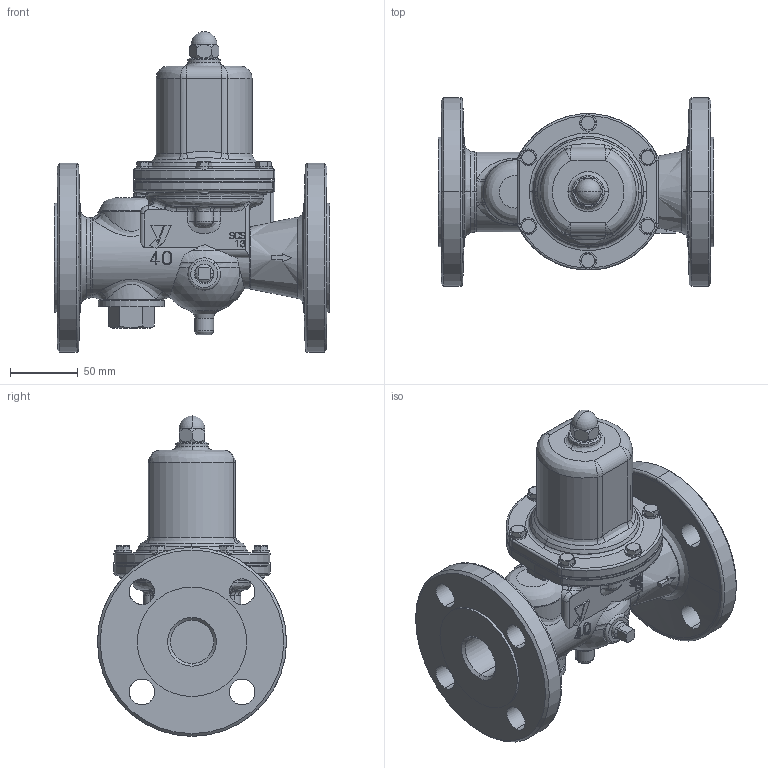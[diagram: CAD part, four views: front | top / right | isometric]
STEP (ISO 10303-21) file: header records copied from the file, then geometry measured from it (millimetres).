
FILE_DESCRIPTION( (''), '2;1');
FILE_NAME ('PC2091.11224.GD-29S-NE 40A_21014.stp','2026-03-26T17:14:49',(''),(''),'spGate 21.9.4 (****-****-****-****)','','');
FILE_SCHEMA (('AUTOMOTIVE_DESIGN'));
Length unit declared in the file: millimetre
Products named in the file (9): Assembly; ダイヤフラム　32-40A; 保護筒 32-40A; ストレーナキャップ32-40A; CP_''_JIS B 1183 六角袋ナット 3形 M''_705; CP_''_JIS B 1180 呼び径六角ボルト''_17166; プラグ3D; 40A弁箱; CP_平座金(ミ''_JIS B 1256 みがき丸 6_740
Assembly tree (21 placements, depth 2):
  Assembly
    ダイヤフラム　32-40A
    保護筒 32-40A
    ストレーナキャップ32-40A
    CP_''_JIS B 1183 六角袋ナット 3形 M''_705
    CP_''_JIS B 1180 呼び径六角ボルト''_17166  x6
    プラグ3D  x4
    40A弁箱
    CP_平座金(ミ''_JIS B 1256 みがき丸 6_740  x6
Bounding box: 204 x 140 x 237.5 mm (x, y, z)
Volume: 1560096.2 mm3; surface area: 222197.2 mm2
Topology: 21 solids, 21 shells, 764 faces, 1845 edges, 1144 vertices
Faces by surface type: bspline 287, plane 239, cylinder 219, sphere 19
Entity records: 36405 total; most frequent: CARTESIAN_POINT 12924, ORIENTED_EDGE 2834, DIRECTION 2118, COLOUR_RGB 1997, PRESENTATION_STYLE_ASSIGNMENT 1997, STYLED_ITEM 1997, EDGE_CURVE 1417, DRAUGHTING_PRE_DEFINED_CURVE_FONT 1417
